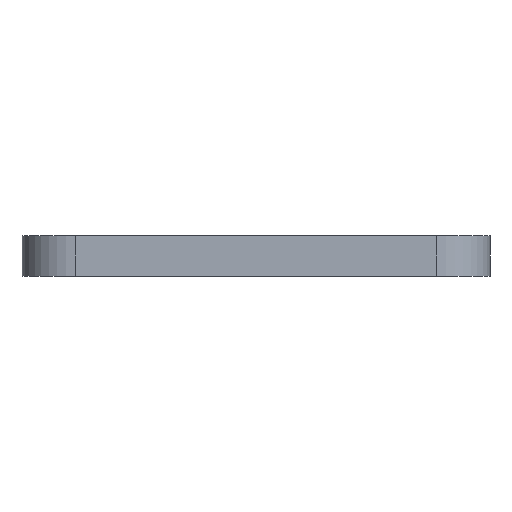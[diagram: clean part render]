
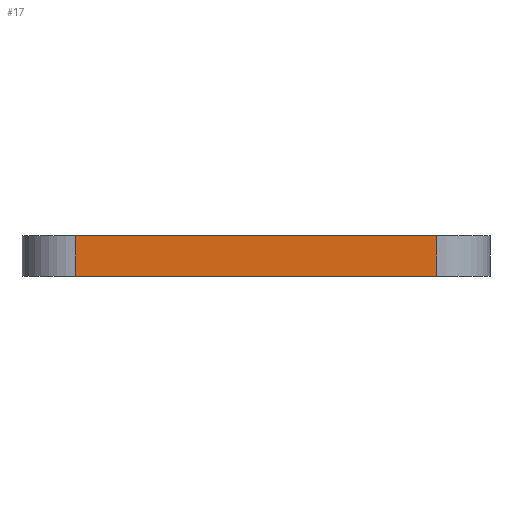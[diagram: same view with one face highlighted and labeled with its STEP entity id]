
A CAD part, left-side view. The second image highlights one B-rep face of the part: STEP entity #17.
In plain terms, the highlighted planar face has unit normal (-1, 0, 0).
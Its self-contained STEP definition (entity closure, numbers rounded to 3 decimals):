
#17 = ADVANCED_FACE('',(#18),#32,.F.);
#18 = FACE_BOUND('',#19,.F.);
#19 = EDGE_LOOP('',(#20,#55,#83,#111));
#20 = ORIENTED_EDGE('',*,*,#21,.F.);
#21 = EDGE_CURVE('',#22,#24,#26,.T.);
#22 = VERTEX_POINT('',#23);
#23 = CARTESIAN_POINT('',(-40.,-27.,3.));
#24 = VERTEX_POINT('',#25);
#25 = CARTESIAN_POINT('',(-40.,27.,3.));
#26 = SURFACE_CURVE('',#27,(#31,#43),.PCURVE_S1.);
#27 = LINE('',#28,#29);
#28 = CARTESIAN_POINT('',(-40.,-35.,3.));
#29 = VECTOR('',#30,1.);
#30 = DIRECTION('',(0.,1.,0.));
#31 = PCURVE('',#32,#37);
#32 = PLANE('',#33);
#33 = AXIS2_PLACEMENT_3D('',#34,#35,#36);
#34 = CARTESIAN_POINT('',(-40.,-35.,-3.));
#35 = DIRECTION('',(1.,0.,0.));
#36 = DIRECTION('',(0.,0.,1.));
#37 = DEFINITIONAL_REPRESENTATION('',(#38),#42);
#38 = LINE('',#39,#40);
#39 = CARTESIAN_POINT('',(6.,0.));
#40 = VECTOR('',#41,1.);
#41 = DIRECTION('',(0.,-1.));
#42 = ( GEOMETRIC_REPRESENTATION_CONTEXT(2) 
PARAMETRIC_REPRESENTATION_CONTEXT() REPRESENTATION_CONTEXT('2D SPACE',''
  ) );
#43 = PCURVE('',#44,#49);
#44 = PLANE('',#45);
#45 = AXIS2_PLACEMENT_3D('',#46,#47,#48);
#46 = CARTESIAN_POINT('',(-40.,-35.,3.));
#47 = DIRECTION('',(0.,0.,1.));
#48 = DIRECTION('',(1.,0.,0.));
#49 = DEFINITIONAL_REPRESENTATION('',(#50),#54);
#50 = LINE('',#51,#52);
#51 = CARTESIAN_POINT('',(0.,0.));
#52 = VECTOR('',#53,1.);
#53 = DIRECTION('',(0.,1.));
#54 = ( GEOMETRIC_REPRESENTATION_CONTEXT(2) 
PARAMETRIC_REPRESENTATION_CONTEXT() REPRESENTATION_CONTEXT('2D SPACE',''
  ) );
#55 = ORIENTED_EDGE('',*,*,#56,.F.);
#56 = EDGE_CURVE('',#57,#22,#59,.T.);
#57 = VERTEX_POINT('',#58);
#58 = CARTESIAN_POINT('',(-40.,-27.,-3.));
#59 = SURFACE_CURVE('',#60,(#64,#71),.PCURVE_S1.);
#60 = LINE('',#61,#62);
#61 = CARTESIAN_POINT('',(-40.,-27.,-3.));
#62 = VECTOR('',#63,1.);
#63 = DIRECTION('',(0.,0.,1.));
#64 = PCURVE('',#32,#65);
#65 = DEFINITIONAL_REPRESENTATION('',(#66),#70);
#66 = LINE('',#67,#68);
#67 = CARTESIAN_POINT('',(0.,-8.));
#68 = VECTOR('',#69,1.);
#69 = DIRECTION('',(1.,0.));
#70 = ( GEOMETRIC_REPRESENTATION_CONTEXT(2) 
PARAMETRIC_REPRESENTATION_CONTEXT() REPRESENTATION_CONTEXT('2D SPACE',''
  ) );
#71 = PCURVE('',#72,#77);
#72 = CYLINDRICAL_SURFACE('',#73,8.);
#73 = AXIS2_PLACEMENT_3D('',#74,#75,#76);
#74 = CARTESIAN_POINT('',(-32.,-27.,-3.));
#75 = DIRECTION('',(0.,0.,1.));
#76 = DIRECTION('',(-1.,-0.,0.));
#77 = DEFINITIONAL_REPRESENTATION('',(#78),#82);
#78 = LINE('',#79,#80);
#79 = CARTESIAN_POINT('',(0.,0.));
#80 = VECTOR('',#81,1.);
#81 = DIRECTION('',(0.,1.));
#82 = ( GEOMETRIC_REPRESENTATION_CONTEXT(2) 
PARAMETRIC_REPRESENTATION_CONTEXT() REPRESENTATION_CONTEXT('2D SPACE',''
  ) );
#83 = ORIENTED_EDGE('',*,*,#84,.T.);
#84 = EDGE_CURVE('',#57,#85,#87,.T.);
#85 = VERTEX_POINT('',#86);
#86 = CARTESIAN_POINT('',(-40.,27.,-3.));
#87 = SURFACE_CURVE('',#88,(#92,#99),.PCURVE_S1.);
#88 = LINE('',#89,#90);
#89 = CARTESIAN_POINT('',(-40.,-35.,-3.));
#90 = VECTOR('',#91,1.);
#91 = DIRECTION('',(0.,1.,0.));
#92 = PCURVE('',#32,#93);
#93 = DEFINITIONAL_REPRESENTATION('',(#94),#98);
#94 = LINE('',#95,#96);
#95 = CARTESIAN_POINT('',(0.,0.));
#96 = VECTOR('',#97,1.);
#97 = DIRECTION('',(0.,-1.));
#98 = ( GEOMETRIC_REPRESENTATION_CONTEXT(2) 
PARAMETRIC_REPRESENTATION_CONTEXT() REPRESENTATION_CONTEXT('2D SPACE',''
  ) );
#99 = PCURVE('',#100,#105);
#100 = PLANE('',#101);
#101 = AXIS2_PLACEMENT_3D('',#102,#103,#104);
#102 = CARTESIAN_POINT('',(-40.,-35.,-3.));
#103 = DIRECTION('',(0.,0.,1.));
#104 = DIRECTION('',(1.,0.,0.));
#105 = DEFINITIONAL_REPRESENTATION('',(#106),#110);
#106 = LINE('',#107,#108);
#107 = CARTESIAN_POINT('',(0.,0.));
#108 = VECTOR('',#109,1.);
#109 = DIRECTION('',(0.,1.));
#110 = ( GEOMETRIC_REPRESENTATION_CONTEXT(2) 
PARAMETRIC_REPRESENTATION_CONTEXT() REPRESENTATION_CONTEXT('2D SPACE',''
  ) );
#111 = ORIENTED_EDGE('',*,*,#112,.T.);
#112 = EDGE_CURVE('',#85,#24,#113,.T.);
#113 = SURFACE_CURVE('',#114,(#118,#125),.PCURVE_S1.);
#114 = LINE('',#115,#116);
#115 = CARTESIAN_POINT('',(-40.,27.,-3.));
#116 = VECTOR('',#117,1.);
#117 = DIRECTION('',(0.,0.,1.));
#118 = PCURVE('',#32,#119);
#119 = DEFINITIONAL_REPRESENTATION('',(#120),#124);
#120 = LINE('',#121,#122);
#121 = CARTESIAN_POINT('',(0.,-62.));
#122 = VECTOR('',#123,1.);
#123 = DIRECTION('',(1.,0.));
#124 = ( GEOMETRIC_REPRESENTATION_CONTEXT(2) 
PARAMETRIC_REPRESENTATION_CONTEXT() REPRESENTATION_CONTEXT('2D SPACE',''
  ) );
#125 = PCURVE('',#126,#131);
#126 = CYLINDRICAL_SURFACE('',#127,8.);
#127 = AXIS2_PLACEMENT_3D('',#128,#129,#130);
#128 = CARTESIAN_POINT('',(-32.,27.,-3.));
#129 = DIRECTION('',(0.,0.,1.));
#130 = DIRECTION('',(-1.,-0.,0.));
#131 = DEFINITIONAL_REPRESENTATION('',(#132),#136);
#132 = LINE('',#133,#134);
#133 = CARTESIAN_POINT('',(-0.,0.));
#134 = VECTOR('',#135,1.);
#135 = DIRECTION('',(-0.,1.));
#136 = ( GEOMETRIC_REPRESENTATION_CONTEXT(2) 
PARAMETRIC_REPRESENTATION_CONTEXT() REPRESENTATION_CONTEXT('2D SPACE',''
  ) );
